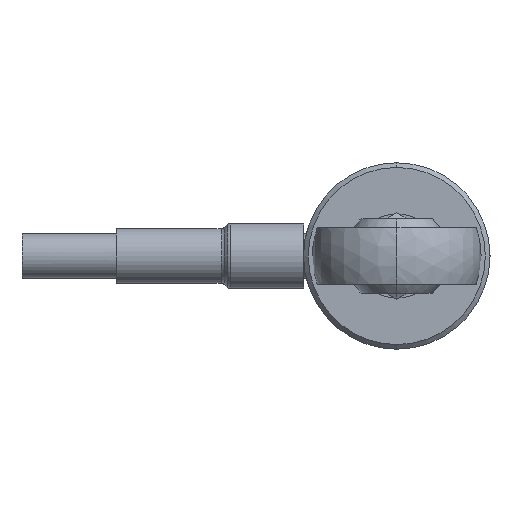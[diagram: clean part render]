
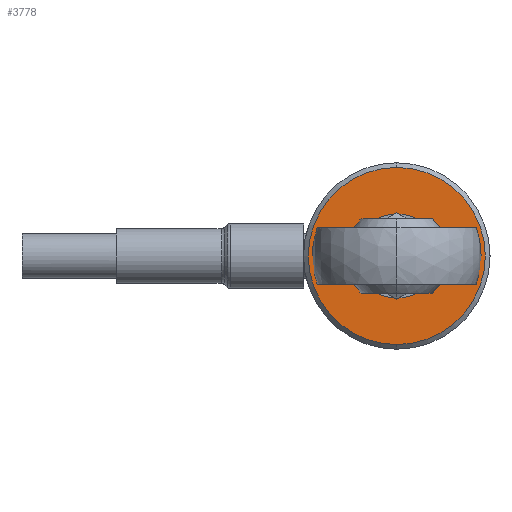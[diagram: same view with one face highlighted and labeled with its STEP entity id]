
A CAD part, left-side view. The second image highlights one B-rep face of the part: STEP entity #3778.
In plain terms, the highlighted planar face has unit normal (-1, 0, 0).
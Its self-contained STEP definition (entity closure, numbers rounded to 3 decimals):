
#275 = EDGE_LOOP ( 'NONE', ( #1421, #530 ) ) ;
#530 = ORIENTED_EDGE ( 'NONE', *, *, #2589, .F. ) ;
#578 = CIRCLE ( 'NONE', #3849, 4.5 ) ;
#677 = CARTESIAN_POINT ( 'NONE',  ( 0., 0., -9.45 ) ) ;
#695 = DIRECTION ( 'NONE',  ( -1., 0., 0. ) ) ;
#702 = DIRECTION ( 'NONE',  ( -1., 0., 0. ) ) ;
#759 = AXIS2_PLACEMENT_3D ( 'NONE', #2264, #970, #3266 ) ;
#873 = EDGE_CURVE ( 'NONE', #901, #2657, #1862, .T. ) ;
#901 = VERTEX_POINT ( 'NONE', #677 ) ;
#952 = FACE_OUTER_BOUND ( 'NONE', #3142, .T. ) ;
#964 = DIRECTION ( 'NONE',  ( -1., 0., 0. ) ) ;
#970 = DIRECTION ( 'NONE',  ( -1., 0., 0. ) ) ;
#1160 = AXIS2_PLACEMENT_3D ( 'NONE', #2929, #695, #1662 ) ;
#1279 = CARTESIAN_POINT ( 'NONE',  ( 0., 0., 0. ) ) ;
#1421 = ORIENTED_EDGE ( 'NONE', *, *, #1537, .F. ) ;
#1492 = CIRCLE ( 'NONE', #2601, 4.5 ) ;
#1537 = EDGE_CURVE ( 'NONE', #2322, #2603, #578, .T. ) ;
#1624 = DIRECTION ( 'NONE',  ( 0., 0., -1. ) ) ;
#1662 = DIRECTION ( 'NONE',  ( 0., 0., -1. ) ) ;
#1675 = DIRECTION ( 'NONE',  ( 0., 0., -1. ) ) ;
#1862 = CIRCLE ( 'NONE', #1160, 9.45 ) ;
#1978 = EDGE_CURVE ( 'NONE', #2657, #901, #3491, .T. ) ;
#2055 = AXIS2_PLACEMENT_3D ( 'NONE', #3924, #3615, #1675 ) ;
#2175 = CARTESIAN_POINT ( 'NONE',  ( 0., 0., -4.5 ) ) ;
#2264 = CARTESIAN_POINT ( 'NONE',  ( 0., 0., 0. ) ) ;
#2322 = VERTEX_POINT ( 'NONE', #2175 ) ;
#2589 = EDGE_CURVE ( 'NONE', #2603, #2322, #1492, .T. ) ;
#2601 = AXIS2_PLACEMENT_3D ( 'NONE', #1279, #964, #1624 ) ;
#2603 = VERTEX_POINT ( 'NONE', #2633 ) ;
#2633 = CARTESIAN_POINT ( 'NONE',  ( 0., 0., 4.5 ) ) ;
#2657 = VERTEX_POINT ( 'NONE', #2712 ) ;
#2662 = CARTESIAN_POINT ( 'NONE',  ( 0., 0., 0. ) ) ;
#2712 = CARTESIAN_POINT ( 'NONE',  ( 0., 0., 9.45 ) ) ;
#2929 = CARTESIAN_POINT ( 'NONE',  ( 0., 0., 0. ) ) ;
#3014 = DIRECTION ( 'NONE',  ( 0., 0., -1. ) ) ;
#3142 = EDGE_LOOP ( 'NONE', ( #3260, #3617 ) ) ;
#3260 = ORIENTED_EDGE ( 'NONE', *, *, #873, .T. ) ;
#3266 = DIRECTION ( 'NONE',  ( 0., 0., -1. ) ) ;
#3491 = CIRCLE ( 'NONE', #759, 9.45 ) ;
#3607 = PLANE ( 'NONE',  #2055 ) ;
#3615 = DIRECTION ( 'NONE',  ( 1., 0., 0. ) ) ;
#3617 = ORIENTED_EDGE ( 'NONE', *, *, #1978, .T. ) ;
#3778 = ADVANCED_FACE ( 'NONE', ( #4143, #952 ), #3607, .F. ) ;
#3849 = AXIS2_PLACEMENT_3D ( 'NONE', #2662, #702, #3014 ) ;
#3924 = CARTESIAN_POINT ( 'NONE',  ( 0., 0., 0. ) ) ;
#4143 = FACE_BOUND ( 'NONE', #275, .T. ) ;
